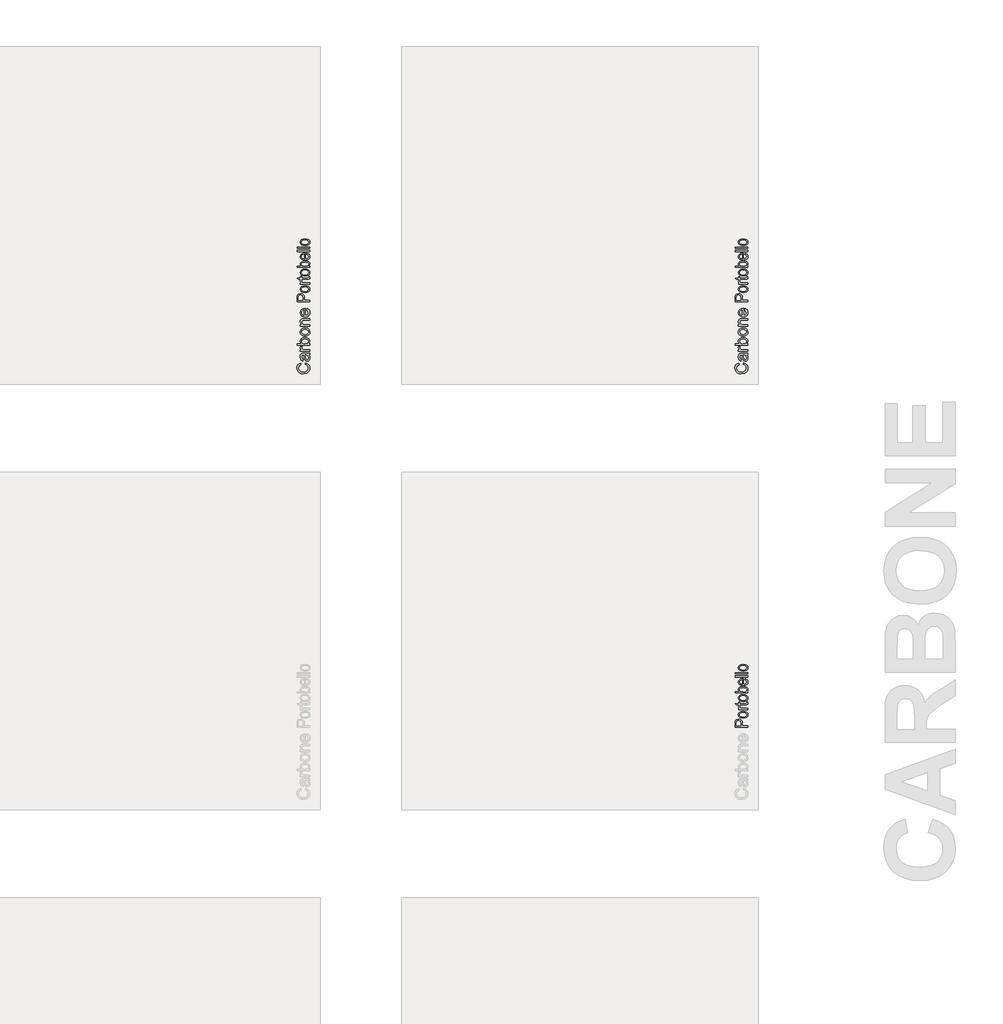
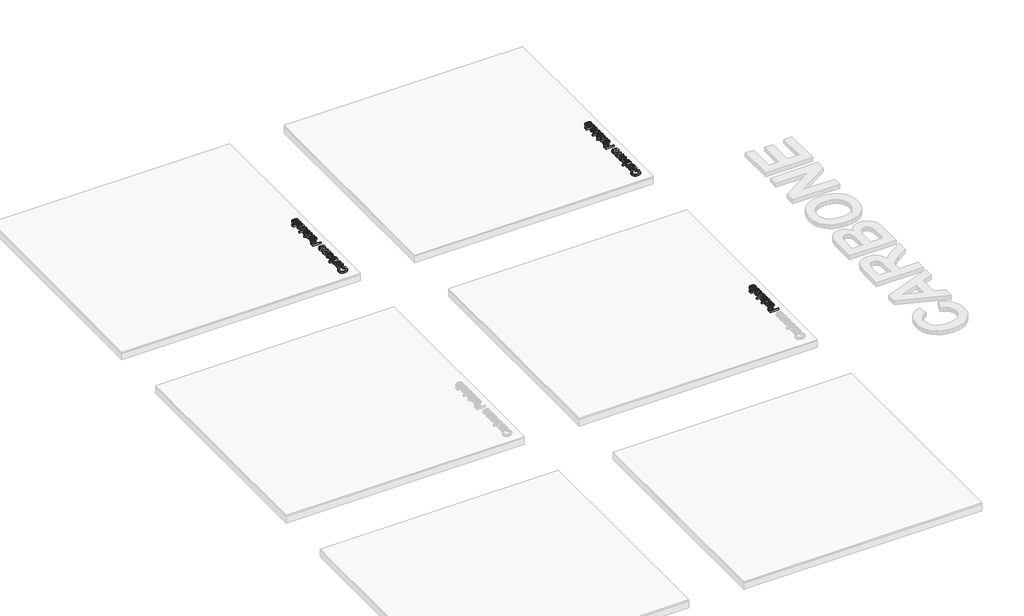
# One storey, part 5 of 12: 5 proxies.
"""IFC4 building model written with IfcOpenShell, lengths in millimetres."""

from ifc_helpers import new_model, si_unit, frame, origin, place, context, project, spatial, polyline, outline, extrude, element, save

model = new_model("IFC4")

# Units and contexts
model_context = context("Model", 3, world=origin())
ifc_project = project(units=[si_unit("LENGTHUNIT", "METRE", prefix="MILLI")], contexts=[model_context])

# Site, building, storey
site = spatial("IfcSite", under=ifc_project)
building = spatial("IfcBuilding", under=site)
storey = spatial("IfcBuildingStorey", under=building, Name="PORTOBELLO - SHOWROOM", Elevation=0.0)

# Proxies
placement = place(None, origin())
element("IfcBuildingElementProxy", 1, Name="10mm Arial", ObjectType="10mm Arial", at=placement, inside=storey, context=model_context, shape_type="SweptSolid", body=[
    extrude(outline(polyline([(-25305.3095564, -2897.3091823), (-25302.0721949, -2884.7521435), (-25287.4396885, -2890.5462849), (-25276.7496509, -2899.6391016), (-25270.2105484, -2911.5830037), (-25268.0308476, -2925.9304015), (-25269.6801852, -2940.4954628), (-25274.628198, -2952.0622859), (-25282.7032078, -2960.928242), (-25293.7335363, -2967.3907024), (-25320.588922, -2972.6514149), (-25335.2367567, -2971.1645585), (-25347.885766, -2966.7039893), (-25358.1343452, -2959.5026993), (-25365.58089, -2949.7936803), (-25370.1150356, -2938.2789738), (-25371.6264174, -2925.6606214), (-25369.6705115, -2911.8926377), (-25363.8027937, -2900.5097556), (-25354.3850146, -2891.8675944), (-25341.7789249, -2886.3217734), (-25338.786818, -2898.8788121), (-25354.2255991, -2909.179508), (-25359.0693787, -2926.1511307), (-25353.6983015, -2945.7960293), (-25339.2773273, -2956.8938028), (-25320.6134474, -2960.0943761), (-25298.9819861, -2956.3051916), (-25285.1618858, -2944.5084423), (-25280.5878863, -2927.1812003), (-25282.1452535, -2916.6996291), (-25286.8173548, -2907.9654974), (-25294.5551394, -2901.3712127), (-25305.3095564, -2897.3091823)])), frame((0.0, 0.0, 17.0), z_axis=(0.0, 0.0, 1.0), x_axis=(1.0, 0.0, 0.0)), (0.0, 0.0, 1.0), 20.0),
    extrude(outline(polyline([(-25279.0182565, -2821.9669497), (-25270.5079197, -2834.1438437), (-25268.0308476, -2847.596062), (-25269.5207697, -2858.0898959), (-25273.9905359, -2865.8307462), (-25280.7779587, -2870.6040151), (-25289.2208505, -2872.1951048), (-25299.1536644, -2869.7916091), (-25306.3641515, -2863.4763015), (-25310.4844298, -2854.6839218), (-25312.3728907, -2843.8191402), (-25316.6893728, -2822.0405261), (-25319.485276, -2821.9669497), (-25328.7559023, -2825.4250404), (-25332.3856713, -2839.3064544), (-25329.9699128, -2852.010646), (-25321.3982623, -2858.0684361), (-25322.9678922, -2870.6254749), (-25335.2306254, -2865.1930841), (-25342.416587, -2854.2547261), (-25344.94271, -2837.6877736), (-25342.7108926, -2822.4697217), (-25337.1068235, -2813.8735458), (-25328.584224, -2810.0230476), (-25317.5968151, -2809.4099109), (-25301.974093, -2809.4099109), (-25280.1586907, -2808.7722488), (-25269.6004774, -2806.2706512), (-25269.6004774, -2818.82769), (-25279.0182565, -2821.9669497)]), holes=[polyline([(-25304.132334, -2821.9669497), (-25300.2818358, -2842.2249849), (-25298.2462221, -2853.0284528), (-25294.9352842, -2857.9212833), (-25290.1037673, -2859.638066), (-25283.3102131, -2855.8979324), (-25280.5878863, -2844.9227862), (-25283.592256, -2832.2185946), (-25290.8640567, -2824.0270889), (-25300.5761414, -2822.0405261), (-25304.132334, -2821.9669497)])]), frame((0.0, 0.0, 17.0), z_axis=(0.0, 0.0, 1.0), x_axis=(1.0, 0.0, 0.0)), (0.0, 0.0, 1.0), 20.0),
    extrude(outline(polyline([(-25269.6004774, -2792.1439826), (-25343.3730802, -2792.1439826), (-25343.3730802, -2781.1565737), (-25332.4592477, -2781.1565737), (-25342.5146889, -2773.3574754), (-25344.94271, -2765.5093262), (-25341.0676864, -2752.9032364), (-25329.8104973, -2757.0970912), (-25332.3856713, -2765.9262591), (-25329.9085992, -2773.0263816), (-25323.0414686, -2777.5513301), (-25308.3752397, -2779.5869438), (-25269.6004774, -2779.5869438), (-25269.6004774, -2792.1439826)])), frame((0.0, 0.0, 17.0), z_axis=(0.0, 0.0, 1.0), x_axis=(1.0, 0.0, 0.0)), (0.0, 0.0, 1.0), 20.0),
    extrude(outline(polyline([(-25269.6004774, -2732.4980485), (-25269.6004774, -2745.0550872), (-25370.0567876, -2745.0550872), (-25370.0567876, -2732.4980485), (-25332.8026042, -2732.4980485), (-25341.9076836, -2723.7056688), (-25344.94271, -2712.7795735), (-25342.2081205, -2700.1980093), (-25334.5193868, -2690.4368737), (-25322.563222, -2684.4403971), (-25307.5904248, -2682.2698934), (-25290.8272685, -2684.5170392), (-25278.3560689, -2691.2584768), (-25270.6121529, -2701.1514368), (-25268.0308476, -2712.8531499), (-25271.3601796, -2724.0183685), (-25281.3481758, -2732.4980485), (-25269.6004774, -2732.4980485)]), holes=[polyline([(-25307.0018136, -2732.4980485), (-25289.4415797, -2729.0644832), (-25282.8013097, -2722.4855268), (-25280.5878863, -2713.9322704), (-25282.2188299, -2706.6849951), (-25287.1116604, -2700.4923149), (-25295.2357211, -2696.2432778), (-25306.5603552, -2694.8269321), (-25318.0505362, -2696.1850298), (-25326.0826264, -2700.2593229), (-25330.8099101, -2706.2588651), (-25332.3856713, -2713.3927102), (-25330.7547278, -2720.6399855), (-25325.8618972, -2726.8326657), (-25317.8849893, -2731.0817028), (-25307.0018136, -2732.4980485)])]), frame((0.0, 0.0, 17.0), z_axis=(0.0, 0.0, 1.0), x_axis=(1.0, 0.0, 0.0)), (0.0, 0.0, 1.0), 20.0),
    extrude(outline(polyline([(-25306.4867788, -2671.2824845), (-25324.2738733, -2668.5662891), (-25336.7757297, -2660.4177029), (-25342.900965, -2650.3499989), (-25344.94271, -2638.2957322), (-25342.4564409, -2625.104097), (-25334.9976334, -2614.5673435), (-25323.1548989, -2607.6603591), (-25307.5168484, -2605.3580309), (-25285.1741486, -2609.4292583), (-25272.5312707, -2621.2873213), (-25268.0308476, -2638.2957322), (-25270.5079197, -2651.646783), (-25277.939136, -2662.1712737), (-25290.0301909, -2669.0046818), (-25306.4867788, -2671.2824845)]), holes=[polyline([(-25306.5113043, -2658.7254457), (-25295.1468163, -2657.2723118), (-25287.0503467, -2652.9129102), (-25282.2035014, -2646.3523479), (-25280.5878863, -2638.2957322), (-25282.2126985, -2630.2759047), (-25287.0871349, -2623.7276052), (-25295.2909034, -2619.3682036), (-25306.9037117, -2617.9150697), (-25317.9371059, -2619.3774006), (-25325.9232109, -2623.7643934), (-25330.7700562, -2630.32189), (-25332.3856713, -2638.2957322), (-25330.7761875, -2646.3523479), (-25325.9477364, -2652.9129102), (-25317.8696609, -2657.2723118), (-25306.5113043, -2658.7254457)])]), frame((0.0, 0.0, 17.0), z_axis=(0.0, 0.0, 1.0), x_axis=(1.0, 0.0, 0.0)), (0.0, 0.0, 1.0), 20.0),
    extrude(outline(polyline([(-25269.6004774, -2591.2313623), (-25343.3730802, -2591.2313623), (-25343.3730802, -2578.6743235), (-25333.0723843, -2578.6743235), (-25341.9751286, -2569.0726035), (-25344.94271, -2555.9637417), (-25342.5514771, -2544.1056787), (-25336.2729577, -2536.0122748), (-25327.0391196, -2532.2476157), (-25314.8990138, -2531.5854282), (-25269.6004774, -2531.5854282), (-25269.6004774, -2544.1424669), (-25313.2067566, -2544.1424669), (-25324.3167928, -2545.5894694), (-25330.190642, -2550.7030292), (-25332.3856713, -2559.3237306), (-25327.4560525, -2572.9476271), (-25320.3130105, -2577.2426494), (-25308.7431217, -2578.6743235), (-25269.6004774, -2578.6743235), (-25269.6004774, -2591.2313623)])), frame((0.0, 0.0, 17.0), z_axis=(0.0, 0.0, 1.0), x_axis=(1.0, 0.0, 0.0)), (0.0, 0.0, 1.0), 20.0),
    extrude(outline(polyline([(-25291.5752953, -2462.6688677), (-25290.0056654, -2450.3570836), (-25280.7289078, -2454.7931273), (-25273.7943322, -2461.8717901), (-25269.4717187, -2471.4336563), (-25268.0308476, -2483.3193104), (-25270.5171167, -2498.0529843), (-25277.9759242, -2509.3898811), (-25289.922892, -2516.6187623), (-25305.8736422, -2519.0283894), (-25322.3608869, -2516.5942368), (-25334.6910651, -2509.2917792), (-25342.3797988, -2498.1081666), (-25344.94271, -2484.0305489), (-25342.3859302, -2470.3913239), (-25334.7155906, -2459.4928198), (-25322.4099378, -2452.3467121), (-25305.9472185, -2449.9646762), (-25302.5627042, -2450.0382526), (-25302.5627042, -2506.4713506), (-25293.1633192, -2504.2977812), (-25286.2532691, -2499.2486008), (-25282.004232, -2491.9614716), (-25280.5878863, -2483.0740557), (-25283.2121112, -2470.7622716), (-25291.5752953, -2462.6688677)]), holes=[polyline([(-25315.119743, -2506.4713506), (-25315.119743, -2462.5217149), (-25326.4995593, -2467.5494355), (-25330.9141433, -2474.8702872), (-25332.3856713, -2484.0795998), (-25327.6890445, -2499.5429064), (-25322.1984057, -2504.4081458), (-25315.119743, -2506.4713506)])]), frame((0.0, 0.0, 17.0), z_axis=(0.0, 0.0, 1.0), x_axis=(1.0, 0.0, 0.0)), (0.0, 0.0, 1.0), 20.0),
])
element("IfcBuildingElementProxy", 2, Name="10mm Arial", ObjectType="10mm Arial", at=placement, inside=storey, context=model_context, shape_type="SweptSolid", body=[
    extrude(outline(polyline([(-28805.3095564, -2897.3091823), (-28802.0721949, -2884.7521435), (-28787.4396885, -2890.5462849), (-28776.7496509, -2899.6391016), (-28770.2105484, -2911.5830037), (-28768.0308476, -2925.9304015), (-28769.6801852, -2940.4954628), (-28774.628198, -2952.0622859), (-28782.7032078, -2960.928242), (-28793.7335363, -2967.3907024), (-28820.588922, -2972.6514149), (-28835.2367567, -2971.1645585), (-28847.885766, -2966.7039893), (-28858.1343452, -2959.5026993), (-28865.58089, -2949.7936803), (-28870.1150356, -2938.2789738), (-28871.6264174, -2925.6606214), (-28869.6705115, -2911.8926377), (-28863.8027937, -2900.5097556), (-28854.3850146, -2891.8675944), (-28841.7789249, -2886.3217734), (-28838.786818, -2898.8788121), (-28854.2255991, -2909.179508), (-28859.0693787, -2926.1511307), (-28853.6983015, -2945.7960293), (-28839.2773273, -2956.8938028), (-28820.6134474, -2960.0943761), (-28798.9819861, -2956.3051916), (-28785.1618858, -2944.5084423), (-28780.5878863, -2927.1812003), (-28782.1452535, -2916.6996291), (-28786.8173548, -2907.9654974), (-28794.5551394, -2901.3712127), (-28805.3095564, -2897.3091823)])), frame((0.0, 0.0, 17.0), z_axis=(0.0, 0.0, 1.0), x_axis=(1.0, 0.0, 0.0)), (0.0, 0.0, 1.0), 20.0),
    extrude(outline(polyline([(-28779.0182565, -2821.9669497), (-28770.5079197, -2834.1438437), (-28768.0308476, -2847.596062), (-28769.5207697, -2858.0898959), (-28773.9905359, -2865.8307462), (-28780.7779587, -2870.6040151), (-28789.2208505, -2872.1951048), (-28799.1536644, -2869.7916091), (-28806.3641515, -2863.4763015), (-28810.4844298, -2854.6839218), (-28812.3728907, -2843.8191402), (-28816.6893728, -2822.0405261), (-28819.485276, -2821.9669497), (-28828.7559023, -2825.4250404), (-28832.3856713, -2839.3064544), (-28829.9699128, -2852.010646), (-28821.3982623, -2858.0684361), (-28822.9678922, -2870.6254749), (-28835.2306254, -2865.1930841), (-28842.416587, -2854.2547261), (-28844.94271, -2837.6877736), (-28842.7108926, -2822.4697217), (-28837.1068235, -2813.8735458), (-28828.584224, -2810.0230476), (-28817.5968151, -2809.4099109), (-28801.974093, -2809.4099109), (-28780.1586907, -2808.7722488), (-28769.6004774, -2806.2706512), (-28769.6004774, -2818.82769), (-28779.0182565, -2821.9669497)]), holes=[polyline([(-28804.132334, -2821.9669497), (-28800.2818358, -2842.2249849), (-28798.2462221, -2853.0284528), (-28794.9352842, -2857.9212833), (-28790.1037673, -2859.638066), (-28783.3102131, -2855.8979324), (-28780.5878863, -2844.9227862), (-28783.592256, -2832.2185946), (-28790.8640567, -2824.0270889), (-28800.5761414, -2822.0405261), (-28804.132334, -2821.9669497)])]), frame((0.0, 0.0, 17.0), z_axis=(0.0, 0.0, 1.0), x_axis=(1.0, 0.0, 0.0)), (0.0, 0.0, 1.0), 20.0),
    extrude(outline(polyline([(-28769.6004774, -2792.1439826), (-28843.3730802, -2792.1439826), (-28843.3730802, -2781.1565737), (-28832.4592477, -2781.1565737), (-28842.5146889, -2773.3574754), (-28844.94271, -2765.5093262), (-28841.0676864, -2752.9032364), (-28829.8104973, -2757.0970912), (-28832.3856713, -2765.9262591), (-28829.9085992, -2773.0263816), (-28823.0414686, -2777.5513301), (-28808.3752397, -2779.5869438), (-28769.6004774, -2779.5869438), (-28769.6004774, -2792.1439826)])), frame((0.0, 0.0, 17.0), z_axis=(0.0, 0.0, 1.0), x_axis=(1.0, 0.0, 0.0)), (0.0, 0.0, 1.0), 20.0),
    extrude(outline(polyline([(-28769.6004774, -2732.4980485), (-28769.6004774, -2745.0550872), (-28870.0567876, -2745.0550872), (-28870.0567876, -2732.4980485), (-28832.8026042, -2732.4980485), (-28841.9076836, -2723.7056688), (-28844.94271, -2712.7795735), (-28842.2081205, -2700.1980093), (-28834.5193868, -2690.4368737), (-28822.563222, -2684.4403971), (-28807.5904248, -2682.2698934), (-28790.8272685, -2684.5170392), (-28778.3560689, -2691.2584768), (-28770.6121529, -2701.1514368), (-28768.0308476, -2712.8531499), (-28771.3601796, -2724.0183685), (-28781.3481758, -2732.4980485), (-28769.6004774, -2732.4980485)]), holes=[polyline([(-28807.0018136, -2732.4980485), (-28789.4415797, -2729.0644832), (-28782.8013097, -2722.4855268), (-28780.5878863, -2713.9322704), (-28782.2188299, -2706.6849951), (-28787.1116604, -2700.4923149), (-28795.2357211, -2696.2432778), (-28806.5603552, -2694.8269321), (-28818.0505362, -2696.1850298), (-28826.0826264, -2700.2593229), (-28830.8099101, -2706.2588651), (-28832.3856713, -2713.3927102), (-28830.7547278, -2720.6399855), (-28825.8618972, -2726.8326657), (-28817.8849893, -2731.0817028), (-28807.0018136, -2732.4980485)])]), frame((0.0, 0.0, 17.0), z_axis=(0.0, 0.0, 1.0), x_axis=(1.0, 0.0, 0.0)), (0.0, 0.0, 1.0), 20.0),
    extrude(outline(polyline([(-28806.4867788, -2671.2824845), (-28824.2738733, -2668.5662891), (-28836.7757297, -2660.4177029), (-28842.900965, -2650.3499989), (-28844.94271, -2638.2957322), (-28842.4564409, -2625.104097), (-28834.9976334, -2614.5673435), (-28823.1548989, -2607.6603591), (-28807.5168484, -2605.3580309), (-28785.1741486, -2609.4292583), (-28772.5312707, -2621.2873213), (-28768.0308476, -2638.2957322), (-28770.5079197, -2651.646783), (-28777.939136, -2662.1712737), (-28790.0301909, -2669.0046818), (-28806.4867788, -2671.2824845)]), holes=[polyline([(-28806.5113043, -2658.7254457), (-28795.1468163, -2657.2723118), (-28787.0503467, -2652.9129102), (-28782.2035014, -2646.3523479), (-28780.5878863, -2638.2957322), (-28782.2126985, -2630.2759047), (-28787.0871349, -2623.7276052), (-28795.2909034, -2619.3682036), (-28806.9037117, -2617.9150697), (-28817.9371059, -2619.3774006), (-28825.9232109, -2623.7643934), (-28830.7700562, -2630.32189), (-28832.3856713, -2638.2957322), (-28830.7761875, -2646.3523479), (-28825.9477364, -2652.9129102), (-28817.8696609, -2657.2723118), (-28806.5113043, -2658.7254457)])]), frame((0.0, 0.0, 17.0), z_axis=(0.0, 0.0, 1.0), x_axis=(1.0, 0.0, 0.0)), (0.0, 0.0, 1.0), 20.0),
    extrude(outline(polyline([(-28769.6004774, -2591.2313623), (-28843.3730802, -2591.2313623), (-28843.3730802, -2578.6743235), (-28833.0723843, -2578.6743235), (-28841.9751286, -2569.0726035), (-28844.94271, -2555.9637417), (-28842.5514771, -2544.1056787), (-28836.2729577, -2536.0122748), (-28827.0391196, -2532.2476157), (-28814.8990138, -2531.5854282), (-28769.6004774, -2531.5854282), (-28769.6004774, -2544.1424669), (-28813.2067566, -2544.1424669), (-28824.3167928, -2545.5894694), (-28830.190642, -2550.7030292), (-28832.3856713, -2559.3237306), (-28827.4560525, -2572.9476271), (-28820.3130105, -2577.2426494), (-28808.7431217, -2578.6743235), (-28769.6004774, -2578.6743235), (-28769.6004774, -2591.2313623)])), frame((0.0, 0.0, 17.0), z_axis=(0.0, 0.0, 1.0), x_axis=(1.0, 0.0, 0.0)), (0.0, 0.0, 1.0), 20.0),
    extrude(outline(polyline([(-28791.5752953, -2462.6688677), (-28790.0056654, -2450.3570836), (-28780.7289078, -2454.7931273), (-28773.7943322, -2461.8717901), (-28769.4717187, -2471.4336563), (-28768.0308476, -2483.3193104), (-28770.5171167, -2498.0529843), (-28777.9759242, -2509.3898811), (-28789.922892, -2516.6187623), (-28805.8736422, -2519.0283894), (-28822.3608869, -2516.5942368), (-28834.6910651, -2509.2917792), (-28842.3797988, -2498.1081666), (-28844.94271, -2484.0305489), (-28842.3859302, -2470.3913239), (-28834.7155906, -2459.4928198), (-28822.4099378, -2452.3467121), (-28805.9472185, -2449.9646762), (-28802.5627042, -2450.0382526), (-28802.5627042, -2506.4713506), (-28793.1633192, -2504.2977812), (-28786.2532691, -2499.2486008), (-28782.004232, -2491.9614716), (-28780.5878863, -2483.0740557), (-28783.2121112, -2470.7622716), (-28791.5752953, -2462.6688677)]), holes=[polyline([(-28815.119743, -2506.4713506), (-28815.119743, -2462.5217149), (-28826.4995593, -2467.5494355), (-28830.9141433, -2474.8702872), (-28832.3856713, -2484.0795998), (-28827.6890445, -2499.5429064), (-28822.1984057, -2504.4081458), (-28815.119743, -2506.4713506)])]), frame((0.0, 0.0, 17.0), z_axis=(0.0, 0.0, 1.0), x_axis=(1.0, 0.0, 0.0)), (0.0, 0.0, 1.0), 20.0),
])
element("IfcBuildingElementProxy", 3, Name="10mm Arial Narrow", ObjectType="10mm Arial Narrow", at=placement, inside=storey, context=model_context, shape_type="SweptSolid", body=[
    extrude(outline(polyline([(-25269.6004774, -5795.6286257), (-25370.3190812, -5795.6286257), (-25370.3190812, -5764.3317411), (-25368.4407604, -5748.0360395), (-25358.9603173, -5736.5630534), (-25341.9412084, -5732.273375), (-25329.8653829, -5734.0596834), (-25320.2389891, -5739.4186086), (-25313.9377307, -5749.1623974), (-25311.8373113, -5764.1032966), (-25311.8373113, -5785.8816641), (-25269.6004774, -5785.8816641), (-25269.6004774, -5795.6286257)]), holes=[polyline([(-25323.2087665, -5785.8816641), (-25323.2087665, -5762.9103091), (-25327.7395807, -5747.0461137), (-25341.4081715, -5742.0203366), (-25351.5739479, -5744.4951511), (-25357.3738977, -5750.47278), (-25358.9476259, -5763.1387536), (-25358.9476259, -5785.8816641), (-25323.2087665, -5785.8816641)])]), frame((0.0, 0.0, 17.0), z_axis=(0.0, 0.0, 1.0), x_axis=(1.0, 0.0, 0.0)), (0.0, 0.0, 1.0), 20.0),
    extrude(outline(polyline([(-25306.1515836, -5724.1509069), (-25322.7423592, -5722.1964381), (-25334.694444, -5716.3330315), (-25341.9189986, -5707.4744647), (-25344.3271834, -5696.5345156), (-25341.9189986, -5685.72148), (-25334.694444, -5676.8375306), (-25322.9327295, -5670.8979758), (-25306.913065, -5668.9181242), (-25289.7511784, -5670.8630746), (-25277.6087233, -5676.6979257), (-25270.3841687, -5685.5469739), (-25267.9759838, -5696.5345156), (-25270.3905144, -5707.3951438), (-25277.634106, -5716.2695747), (-25289.5925365, -5722.1805739), (-25306.1515836, -5724.1509069)]), holes=[polyline([(-25306.1769663, -5714.4039453), (-25293.6252149, -5713.0999084), (-25284.7539569, -5709.1877978), (-25279.4806983, -5703.3466011), (-25277.7229455, -5696.2553058), (-25279.4965625, -5689.5352326), (-25284.8174137, -5683.8431593), (-25293.7045359, -5679.9596042), (-25306.1769663, -5678.6650859), (-25318.6906437, -5679.9691228), (-25327.5492104, -5683.8812333), (-25332.8224689, -5689.7224301), (-25334.5802218, -5696.8137254), (-25332.8129504, -5703.5813912), (-25327.5111363, -5709.263946), (-25318.6430511, -5713.1189455), (-25306.1769663, -5714.4039453)])]), frame((0.0, 0.0, 17.0), z_axis=(0.0, 0.0, 1.0), x_axis=(1.0, 0.0, 0.0)), (0.0, 0.0, 1.0), 20.0),
    extrude(outline(polyline([(-25277.7229455, -5597.4404054), (-25267.9759838, -5595.8159118), (-25267.9759838, -5603.1768985), (-25270.0954403, -5611.4516628), (-25275.8953902, -5615.766724), (-25290.5412154, -5616.9343288), (-25332.9557282, -5616.9343288), (-25332.9557282, -5625.0567968), (-25336.2047154, -5625.0567968), (-25331.3312346, -5626.6812904), (-25332.9557282, -5634.2453388), (-25330.63321, -5640.3244985), (-25324.1479269, -5644.1953621), (-25308.7406203, -5646.1752137), (-25269.6004774, -5646.1752137), (-25269.6004774, -5655.9221754), (-25342.7026898, -5655.9221754), (-25342.7026898, -5646.1752137), (-25333.0064936, -5646.1752137), (-25342.0935047, -5639.9310664), (-25344.3271834, -5633.5346228), (-25342.7026898, -5625.0567968), (-25342.7026898, -5616.9343288), (-25358.9476259, -5616.9343288), (-25367.070094, -5607.1873671), (-25342.7026898, -5607.1873671), (-25342.7026898, -5597.4404054), (-25332.9557282, -5597.4404054), (-25332.9557282, -5607.1873671), (-25288.3075366, -5607.1873671), (-25280.3119822, -5606.3243549), (-25277.7229455, -5601.7047012), (-25277.7229455, -5597.4404054)])), frame((0.0, 0.0, 17.0), z_axis=(0.0, 0.0, 1.0), x_axis=(1.0, 0.0, 0.0)), (0.0, 0.0, 1.0), 20.0),
    extrude(outline(polyline([(-25306.1515836, -5590.942431), (-25322.7423592, -5588.9879621), (-25334.694444, -5583.1245555), (-25341.9189986, -5574.2659888), (-25344.3271834, -5563.3260397), (-25341.9189986, -5552.5130041), (-25334.694444, -5543.6290547), (-25322.9327295, -5537.6894999), (-25306.913065, -5535.7096483), (-25289.7511784, -5537.6545987), (-25277.6087233, -5543.4894497), (-25270.3841687, -5552.3384979), (-25267.9759838, -5563.3260397), (-25270.3905144, -5574.1866678), (-25277.634106, -5583.0610987), (-25289.5925365, -5588.9720979), (-25306.1515836, -5590.942431)]), holes=[polyline([(-25306.1769663, -5581.1954694), (-25293.6252149, -5579.8914325), (-25284.7539569, -5575.9793219), (-25279.4806983, -5570.1381252), (-25277.7229455, -5563.0468298), (-25279.4965625, -5556.3267567), (-25284.8174137, -5550.6346833), (-25293.7045359, -5546.7511283), (-25306.1769663, -5545.45661), (-25318.6906437, -5546.7606468), (-25327.5492104, -5550.6727574), (-25332.8224689, -5556.5139542), (-25334.5802218, -5563.6052495), (-25332.8129504, -5570.3729153), (-25327.5111363, -5576.05547), (-25318.6430511, -5579.9104695), (-25306.1769663, -5581.1954694)])]), frame((0.0, 0.0, 17.0), z_axis=(0.0, 0.0, 1.0), x_axis=(1.0, 0.0, 0.0)), (0.0, 0.0, 1.0), 20.0),
    extrude(outline(polyline([(-25269.6004774, -5512.9667378), (-25269.6004774, -5522.7136994), (-25370.3190812, -5522.7136994), (-25370.3190812, -5512.9667378), (-25334.910197, -5512.9667378), (-25341.9919739, -5505.5676771), (-25344.3271834, -5496.3664437), (-25340.1263445, -5483.4847171), (-25327.3969141, -5474.2073356), (-25306.7100033, -5470.729904), (-25290.2556598, -5472.662163), (-25278.0529207, -5478.45894), (-25270.495218, -5486.8320623), (-25267.9759838, -5496.4933573), (-25270.5904032, -5505.8341955), (-25278.3575133, -5512.9667378), (-25269.6004774, -5512.9667378)]), holes=[polyline([(-25306.7100033, -5512.9667378), (-25289.4624501, -5510.8853553), (-25280.7307969, -5504.996566), (-25277.7229455, -5496.5441227), (-25279.5124267, -5490.6013951), (-25284.8808704, -5485.3630378), (-25306.3038799, -5480.4768656), (-25327.7395807, -5485.1853588), (-25332.8700615, -5490.4300618), (-25334.5802218, -5496.7471844), (-25332.7907405, -5502.7248132), (-25327.4222968, -5508.0171088), (-25306.7100033, -5512.9667378)])]), frame((0.0, 0.0, 17.0), z_axis=(0.0, 0.0, 1.0), x_axis=(1.0, 0.0, 0.0)), (0.0, 0.0, 1.0), 20.0),
    extrude(outline(polyline([(-25292.343388, -5418.7461085), (-25290.7188943, -5408.9991468), (-25280.8323278, -5412.6986772), (-25273.7124769, -5418.5176641), (-25269.4101071, -5426.2213173), (-25267.9759838, -5435.5748469), (-25270.3905144, -5447.1684009), (-25277.634106, -5456.3125232), (-25289.4402402, -5462.2520779), (-25305.5423985, -5464.2319295), (-25322.2093222, -5462.2425594), (-25334.3898514, -5456.2744491), (-25341.8428504, -5447.2604133), (-25344.3271834, -5436.1332666), (-25341.9285171, -5425.4503174), (-25334.7325181, -5416.7028001), (-25322.9930135, -5410.867949), (-25306.9638304, -5408.9229987), (-25303.7148432, -5408.9991468), (-25303.7148432, -5454.4849679), (-25284.2716853, -5448.4819563), (-25279.3601304, -5442.5519201), (-25277.7229455, -5435.4479334), (-25281.3780561, -5425.2694656), (-25292.343388, -5418.7461085)]), holes=[polyline([(-25313.4618049, -5453.8250173), (-25313.4618049, -5418.7461085), (-25327.7268894, -5423.0104042), (-25332.8668887, -5428.8357367), (-25334.5802218, -5436.0571185), (-25328.8691114, -5448.2662033), (-25313.4618049, -5453.8250173)])]), frame((0.0, 0.0, 17.0), z_axis=(0.0, 0.0, 1.0), x_axis=(1.0, 0.0, 0.0)), (0.0, 0.0, 1.0), 20.0),
    extrude(outline(polyline([(-25269.6004774, -5396.0031979), (-25370.3190812, -5396.0031979), (-25370.3190812, -5386.2562363), (-25269.6004774, -5386.2562363), (-25269.6004774, -5396.0031979)])), frame((0.0, 0.0, 17.0), z_axis=(0.0, 0.0, 1.0), x_axis=(1.0, 0.0, 0.0)), (0.0, 0.0, 1.0), 20.0),
    extrude(outline(polyline([(-25269.6004774, -5370.0113002), (-25370.3190812, -5370.0113002), (-25370.3190812, -5360.2643385), (-25269.6004774, -5360.2643385), (-25269.6004774, -5370.0113002)])), frame((0.0, 0.0, 17.0), z_axis=(0.0, 0.0, 1.0), x_axis=(1.0, 0.0, 0.0)), (0.0, 0.0, 1.0), 20.0),
    extrude(outline(polyline([(-25306.1515836, -5348.8928833), (-25322.7423592, -5346.9384144), (-25334.694444, -5341.0750078), (-25341.9189986, -5332.2164411), (-25344.3271834, -5321.2764919), (-25341.9189986, -5310.4634563), (-25334.694444, -5301.5795069), (-25322.9327295, -5295.6399522), (-25306.913065, -5293.6601006), (-25289.7511784, -5295.6050509), (-25277.6087233, -5301.439902), (-25270.3841687, -5310.2889502), (-25267.9759838, -5321.2764919), (-25270.3905144, -5332.1371201), (-25277.634106, -5341.011551), (-25289.5925365, -5346.9225502), (-25306.1515836, -5348.8928833)]), holes=[polyline([(-25306.1769663, -5339.1459216), (-25293.6252149, -5337.8418848), (-25284.7539569, -5333.9297742), (-25279.4806983, -5328.0885774), (-25277.7229455, -5320.9972821), (-25279.4965625, -5314.2772089), (-25284.8174137, -5308.5851356), (-25293.7045359, -5304.7015806), (-25306.1769663, -5303.4070622), (-25318.6906437, -5304.7110991), (-25327.5492104, -5308.6232097), (-25332.8224689, -5314.4644064), (-25334.5802218, -5321.5557018), (-25332.8129504, -5328.3233675), (-25327.5111363, -5334.0059223), (-25318.6430511, -5337.8609218), (-25306.1769663, -5339.1459216)])]), frame((0.0, 0.0, 17.0), z_axis=(0.0, 0.0, 1.0), x_axis=(1.0, 0.0, 0.0)), (0.0, 0.0, 1.0), 20.0),
])
element("IfcBuildingElementProxy", 4, Name="10mm Arial Narrow", ObjectType="10mm Arial Narrow", at=placement, inside=storey, context=model_context, shape_type="SweptSolid", body=[
    extrude(outline(polyline([(-25269.6004774, -2395.6286257), (-25370.3190812, -2395.6286257), (-25370.3190812, -2364.3317411), (-25368.4407604, -2348.0360395), (-25358.9603173, -2336.5630534), (-25341.9412084, -2332.273375), (-25329.8653829, -2334.0596834), (-25320.2389891, -2339.4186086), (-25313.9377307, -2349.1623974), (-25311.8373113, -2364.1032966), (-25311.8373113, -2385.8816641), (-25269.6004774, -2385.8816641), (-25269.6004774, -2395.6286257)]), holes=[polyline([(-25323.2087665, -2385.8816641), (-25323.2087665, -2362.9103091), (-25327.7395807, -2347.0461137), (-25341.4081715, -2342.0203366), (-25351.5739479, -2344.4951511), (-25357.3738977, -2350.47278), (-25358.9476259, -2363.1387536), (-25358.9476259, -2385.8816641), (-25323.2087665, -2385.8816641)])]), frame((0.0, 0.0, 17.0), z_axis=(0.0, 0.0, 1.0), x_axis=(1.0, 0.0, 0.0)), (0.0, 0.0, 1.0), 20.0),
    extrude(outline(polyline([(-25306.1515836, -2324.1509069), (-25322.7423592, -2322.1964381), (-25334.694444, -2316.3330315), (-25341.9189986, -2307.4744647), (-25344.3271834, -2296.5345156), (-25341.9189986, -2285.72148), (-25334.694444, -2276.8375306), (-25322.9327295, -2270.8979758), (-25306.913065, -2268.9181242), (-25289.7511784, -2270.8630746), (-25277.6087233, -2276.6979257), (-25270.3841687, -2285.5469739), (-25267.9759838, -2296.5345156), (-25270.3905144, -2307.3951438), (-25277.634106, -2316.2695747), (-25289.5925365, -2322.1805739), (-25306.1515836, -2324.1509069)]), holes=[polyline([(-25306.1769663, -2314.4039453), (-25293.6252149, -2313.0999084), (-25284.7539569, -2309.1877978), (-25279.4806983, -2303.3466011), (-25277.7229455, -2296.2553058), (-25279.4965625, -2289.5352326), (-25284.8174137, -2283.8431593), (-25293.7045359, -2279.9596042), (-25306.1769663, -2278.6650859), (-25318.6906437, -2279.9691228), (-25327.5492104, -2283.8812333), (-25332.8224689, -2289.7224301), (-25334.5802218, -2296.8137254), (-25332.8129504, -2303.5813912), (-25327.5111363, -2309.263946), (-25318.6430511, -2313.1189455), (-25306.1769663, -2314.4039453)])]), frame((0.0, 0.0, 17.0), z_axis=(0.0, 0.0, 1.0), x_axis=(1.0, 0.0, 0.0)), (0.0, 0.0, 1.0), 20.0),
    extrude(outline(polyline([(-25277.7229455, -2197.4404054), (-25267.9759838, -2195.8159118), (-25267.9759838, -2203.1768985), (-25270.0954403, -2211.4516628), (-25275.8953902, -2215.766724), (-25290.5412154, -2216.9343288), (-25332.9557282, -2216.9343288), (-25332.9557282, -2225.0567968), (-25336.2047154, -2225.0567968), (-25331.3312346, -2226.6812904), (-25332.9557282, -2234.2453388), (-25330.63321, -2240.3244985), (-25324.1479269, -2244.1953621), (-25308.7406203, -2246.1752137), (-25269.6004774, -2246.1752137), (-25269.6004774, -2255.9221754), (-25342.7026898, -2255.9221754), (-25342.7026898, -2246.1752137), (-25333.0064936, -2246.1752137), (-25342.0935047, -2239.9310664), (-25344.3271834, -2233.5346228), (-25342.7026898, -2225.0567968), (-25342.7026898, -2216.9343288), (-25358.9476259, -2216.9343288), (-25367.070094, -2207.1873671), (-25342.7026898, -2207.1873671), (-25342.7026898, -2197.4404054), (-25332.9557282, -2197.4404054), (-25332.9557282, -2207.1873671), (-25288.3075366, -2207.1873671), (-25280.3119822, -2206.3243549), (-25277.7229455, -2201.7047012), (-25277.7229455, -2197.4404054)])), frame((0.0, 0.0, 17.0), z_axis=(0.0, 0.0, 1.0), x_axis=(1.0, 0.0, 0.0)), (0.0, 0.0, 1.0), 20.0),
    extrude(outline(polyline([(-25306.1515836, -2190.942431), (-25322.7423592, -2188.9879621), (-25334.694444, -2183.1245555), (-25341.9189986, -2174.2659888), (-25344.3271834, -2163.3260397), (-25341.9189986, -2152.5130041), (-25334.694444, -2143.6290547), (-25322.9327295, -2137.6894999), (-25306.913065, -2135.7096483), (-25289.7511784, -2137.6545987), (-25277.6087233, -2143.4894497), (-25270.3841687, -2152.3384979), (-25267.9759838, -2163.3260397), (-25270.3905144, -2174.1866678), (-25277.634106, -2183.0610987), (-25289.5925365, -2188.9720979), (-25306.1515836, -2190.942431)]), holes=[polyline([(-25306.1769663, -2181.1954694), (-25293.6252149, -2179.8914325), (-25284.7539569, -2175.9793219), (-25279.4806983, -2170.1381252), (-25277.7229455, -2163.0468298), (-25279.4965625, -2156.3267567), (-25284.8174137, -2150.6346833), (-25293.7045359, -2146.7511283), (-25306.1769663, -2145.45661), (-25318.6906437, -2146.7606468), (-25327.5492104, -2150.6727574), (-25332.8224689, -2156.5139542), (-25334.5802218, -2163.6052495), (-25332.8129504, -2170.3729153), (-25327.5111363, -2176.05547), (-25318.6430511, -2179.9104695), (-25306.1769663, -2181.1954694)])]), frame((0.0, 0.0, 17.0), z_axis=(0.0, 0.0, 1.0), x_axis=(1.0, 0.0, 0.0)), (0.0, 0.0, 1.0), 20.0),
    extrude(outline(polyline([(-25269.6004774, -2112.9667378), (-25269.6004774, -2122.7136994), (-25370.3190812, -2122.7136994), (-25370.3190812, -2112.9667378), (-25334.910197, -2112.9667378), (-25341.9919739, -2105.5676771), (-25344.3271834, -2096.3664437), (-25340.1263445, -2083.4847171), (-25327.3969141, -2074.2073356), (-25306.7100033, -2070.729904), (-25290.2556598, -2072.662163), (-25278.0529207, -2078.45894), (-25270.495218, -2086.8320623), (-25267.9759838, -2096.4933573), (-25270.5904032, -2105.8341955), (-25278.3575133, -2112.9667378), (-25269.6004774, -2112.9667378)]), holes=[polyline([(-25306.7100033, -2112.9667378), (-25289.4624501, -2110.8853553), (-25280.7307969, -2104.996566), (-25277.7229455, -2096.5441227), (-25279.5124267, -2090.6013951), (-25284.8808704, -2085.3630378), (-25306.3038799, -2080.4768656), (-25327.7395807, -2085.1853588), (-25332.8700615, -2090.4300618), (-25334.5802218, -2096.7471844), (-25332.7907405, -2102.7248132), (-25327.4222968, -2108.0171088), (-25306.7100033, -2112.9667378)])]), frame((0.0, 0.0, 17.0), z_axis=(0.0, 0.0, 1.0), x_axis=(1.0, 0.0, 0.0)), (0.0, 0.0, 1.0), 20.0),
    extrude(outline(polyline([(-25292.343388, -2018.7461085), (-25290.7188943, -2008.9991468), (-25280.8323278, -2012.6986772), (-25273.7124769, -2018.5176641), (-25269.4101071, -2026.2213173), (-25267.9759838, -2035.5748469), (-25270.3905144, -2047.1684009), (-25277.634106, -2056.3125232), (-25289.4402402, -2062.2520779), (-25305.5423985, -2064.2319295), (-25322.2093222, -2062.2425594), (-25334.3898514, -2056.2744491), (-25341.8428504, -2047.2604133), (-25344.3271834, -2036.1332666), (-25341.9285171, -2025.4503174), (-25334.7325181, -2016.7028001), (-25322.9930135, -2010.867949), (-25306.9638304, -2008.9229987), (-25303.7148432, -2008.9991468), (-25303.7148432, -2054.4849679), (-25284.2716853, -2048.4819563), (-25279.3601304, -2042.5519201), (-25277.7229455, -2035.4479334), (-25281.3780561, -2025.2694656), (-25292.343388, -2018.7461085)]), holes=[polyline([(-25313.4618049, -2053.8250173), (-25313.4618049, -2018.7461085), (-25327.7268894, -2023.0104042), (-25332.8668887, -2028.8357367), (-25334.5802218, -2036.0571185), (-25328.8691114, -2048.2662033), (-25313.4618049, -2053.8250173)])]), frame((0.0, 0.0, 17.0), z_axis=(0.0, 0.0, 1.0), x_axis=(1.0, 0.0, 0.0)), (0.0, 0.0, 1.0), 20.0),
    extrude(outline(polyline([(-25269.6004774, -1996.0031979), (-25370.3190812, -1996.0031979), (-25370.3190812, -1986.2562363), (-25269.6004774, -1986.2562363), (-25269.6004774, -1996.0031979)])), frame((0.0, 0.0, 17.0), z_axis=(0.0, 0.0, 1.0), x_axis=(1.0, 0.0, 0.0)), (0.0, 0.0, 1.0), 20.0),
    extrude(outline(polyline([(-25269.6004774, -1970.0113002), (-25370.3190812, -1970.0113002), (-25370.3190812, -1960.2643385), (-25269.6004774, -1960.2643385), (-25269.6004774, -1970.0113002)])), frame((0.0, 0.0, 17.0), z_axis=(0.0, 0.0, 1.0), x_axis=(1.0, 0.0, 0.0)), (0.0, 0.0, 1.0), 20.0),
    extrude(outline(polyline([(-25306.1515836, -1948.8928833), (-25322.7423592, -1946.9384144), (-25334.694444, -1941.0750078), (-25341.9189986, -1932.2164411), (-25344.3271834, -1921.2764919), (-25341.9189986, -1910.4634563), (-25334.694444, -1901.5795069), (-25322.9327295, -1895.6399522), (-25306.913065, -1893.6601006), (-25289.7511784, -1895.6050509), (-25277.6087233, -1901.439902), (-25270.3841687, -1910.2889502), (-25267.9759838, -1921.2764919), (-25270.3905144, -1932.1371201), (-25277.634106, -1941.011551), (-25289.5925365, -1946.9225502), (-25306.1515836, -1948.8928833)]), holes=[polyline([(-25306.1769663, -1939.1459216), (-25293.6252149, -1937.8418848), (-25284.7539569, -1933.9297742), (-25279.4806983, -1928.0885774), (-25277.7229455, -1920.9972821), (-25279.4965625, -1914.2772089), (-25284.8174137, -1908.5851356), (-25293.7045359, -1904.7015806), (-25306.1769663, -1903.4070622), (-25318.6906437, -1904.7110991), (-25327.5492104, -1908.6232097), (-25332.8224689, -1914.4644064), (-25334.5802218, -1921.5557018), (-25332.8129504, -1928.3233675), (-25327.5111363, -1934.0059223), (-25318.6430511, -1937.8609218), (-25306.1769663, -1939.1459216)])]), frame((0.0, 0.0, 17.0), z_axis=(0.0, 0.0, 1.0), x_axis=(1.0, 0.0, 0.0)), (0.0, 0.0, 1.0), 20.0),
])
element("IfcBuildingElementProxy", 5, Name="10mm Arial Narrow", ObjectType="10mm Arial Narrow", at=placement, inside=storey, context=model_context, shape_type="SweptSolid", body=[
    extrude(outline(polyline([(-28769.6004774, -2395.6286257), (-28870.3190812, -2395.6286257), (-28870.3190812, -2364.3317411), (-28868.4407604, -2348.0360395), (-28858.9603173, -2336.5630534), (-28841.9412084, -2332.273375), (-28829.8653829, -2334.0596834), (-28820.2389891, -2339.4186086), (-28813.9377307, -2349.1623974), (-28811.8373113, -2364.1032966), (-28811.8373113, -2385.8816641), (-28769.6004774, -2385.8816641), (-28769.6004774, -2395.6286257)]), holes=[polyline([(-28823.2087665, -2385.8816641), (-28823.2087665, -2362.9103091), (-28827.7395807, -2347.0461137), (-28841.4081715, -2342.0203366), (-28851.5739479, -2344.4951511), (-28857.3738977, -2350.47278), (-28858.9476259, -2363.1387536), (-28858.9476259, -2385.8816641), (-28823.2087665, -2385.8816641)])]), frame((0.0, 0.0, 17.0), z_axis=(0.0, 0.0, 1.0), x_axis=(1.0, 0.0, 0.0)), (0.0, 0.0, 1.0), 20.0),
    extrude(outline(polyline([(-28806.1515836, -2324.1509069), (-28822.7423592, -2322.1964381), (-28834.694444, -2316.3330315), (-28841.9189986, -2307.4744647), (-28844.3271834, -2296.5345156), (-28841.9189986, -2285.72148), (-28834.694444, -2276.8375306), (-28822.9327295, -2270.8979758), (-28806.913065, -2268.9181242), (-28789.7511784, -2270.8630746), (-28777.6087233, -2276.6979257), (-28770.3841687, -2285.5469739), (-28767.9759838, -2296.5345156), (-28770.3905144, -2307.3951438), (-28777.634106, -2316.2695747), (-28789.5925365, -2322.1805739), (-28806.1515836, -2324.1509069)]), holes=[polyline([(-28806.1769663, -2314.4039453), (-28793.6252149, -2313.0999084), (-28784.7539569, -2309.1877978), (-28779.4806983, -2303.3466011), (-28777.7229455, -2296.2553058), (-28779.4965625, -2289.5352326), (-28784.8174137, -2283.8431593), (-28793.7045359, -2279.9596042), (-28806.1769663, -2278.6650859), (-28818.6906437, -2279.9691228), (-28827.5492104, -2283.8812333), (-28832.8224689, -2289.7224301), (-28834.5802218, -2296.8137254), (-28832.8129504, -2303.5813912), (-28827.5111363, -2309.263946), (-28818.6430511, -2313.1189455), (-28806.1769663, -2314.4039453)])]), frame((0.0, 0.0, 17.0), z_axis=(0.0, 0.0, 1.0), x_axis=(1.0, 0.0, 0.0)), (0.0, 0.0, 1.0), 20.0),
    extrude(outline(polyline([(-28777.7229455, -2197.4404054), (-28767.9759838, -2195.8159118), (-28767.9759838, -2203.1768985), (-28770.0954403, -2211.4516628), (-28775.8953902, -2215.766724), (-28790.5412154, -2216.9343288), (-28832.9557282, -2216.9343288), (-28832.9557282, -2225.0567968), (-28836.2047154, -2225.0567968), (-28831.3312346, -2226.6812904), (-28832.9557282, -2234.2453388), (-28830.63321, -2240.3244985), (-28824.1479269, -2244.1953621), (-28808.7406203, -2246.1752137), (-28769.6004774, -2246.1752137), (-28769.6004774, -2255.9221754), (-28842.7026898, -2255.9221754), (-28842.7026898, -2246.1752137), (-28833.0064936, -2246.1752137), (-28842.0935047, -2239.9310664), (-28844.3271834, -2233.5346228), (-28842.7026898, -2225.0567968), (-28842.7026898, -2216.9343288), (-28858.9476259, -2216.9343288), (-28867.070094, -2207.1873671), (-28842.7026898, -2207.1873671), (-28842.7026898, -2197.4404054), (-28832.9557282, -2197.4404054), (-28832.9557282, -2207.1873671), (-28788.3075366, -2207.1873671), (-28780.3119822, -2206.3243549), (-28777.7229455, -2201.7047012), (-28777.7229455, -2197.4404054)])), frame((0.0, 0.0, 17.0), z_axis=(0.0, 0.0, 1.0), x_axis=(1.0, 0.0, 0.0)), (0.0, 0.0, 1.0), 20.0),
    extrude(outline(polyline([(-28806.1515836, -2190.942431), (-28822.7423592, -2188.9879621), (-28834.694444, -2183.1245555), (-28841.9189986, -2174.2659888), (-28844.3271834, -2163.3260397), (-28841.9189986, -2152.5130041), (-28834.694444, -2143.6290547), (-28822.9327295, -2137.6894999), (-28806.913065, -2135.7096483), (-28789.7511784, -2137.6545987), (-28777.6087233, -2143.4894497), (-28770.3841687, -2152.3384979), (-28767.9759838, -2163.3260397), (-28770.3905144, -2174.1866678), (-28777.634106, -2183.0610987), (-28789.5925365, -2188.9720979), (-28806.1515836, -2190.942431)]), holes=[polyline([(-28806.1769663, -2181.1954694), (-28793.6252149, -2179.8914325), (-28784.7539569, -2175.9793219), (-28779.4806983, -2170.1381252), (-28777.7229455, -2163.0468298), (-28779.4965625, -2156.3267567), (-28784.8174137, -2150.6346833), (-28793.7045359, -2146.7511283), (-28806.1769663, -2145.45661), (-28818.6906437, -2146.7606468), (-28827.5492104, -2150.6727574), (-28832.8224689, -2156.5139542), (-28834.5802218, -2163.6052495), (-28832.8129504, -2170.3729153), (-28827.5111363, -2176.05547), (-28818.6430511, -2179.9104695), (-28806.1769663, -2181.1954694)])]), frame((0.0, 0.0, 17.0), z_axis=(0.0, 0.0, 1.0), x_axis=(1.0, 0.0, 0.0)), (0.0, 0.0, 1.0), 20.0),
    extrude(outline(polyline([(-28769.6004774, -2112.9667378), (-28769.6004774, -2122.7136994), (-28870.3190812, -2122.7136994), (-28870.3190812, -2112.9667378), (-28834.910197, -2112.9667378), (-28841.9919739, -2105.5676771), (-28844.3271834, -2096.3664437), (-28840.1263445, -2083.4847171), (-28827.3969141, -2074.2073356), (-28806.7100033, -2070.729904), (-28790.2556598, -2072.662163), (-28778.0529207, -2078.45894), (-28770.495218, -2086.8320623), (-28767.9759838, -2096.4933573), (-28770.5904032, -2105.8341955), (-28778.3575133, -2112.9667378), (-28769.6004774, -2112.9667378)]), holes=[polyline([(-28806.7100033, -2112.9667378), (-28789.4624501, -2110.8853553), (-28780.7307969, -2104.996566), (-28777.7229455, -2096.5441227), (-28779.5124267, -2090.6013951), (-28784.8808704, -2085.3630378), (-28806.3038799, -2080.4768656), (-28827.7395807, -2085.1853588), (-28832.8700615, -2090.4300618), (-28834.5802218, -2096.7471844), (-28832.7907405, -2102.7248132), (-28827.4222968, -2108.0171088), (-28806.7100033, -2112.9667378)])]), frame((0.0, 0.0, 17.0), z_axis=(0.0, 0.0, 1.0), x_axis=(1.0, 0.0, 0.0)), (0.0, 0.0, 1.0), 20.0),
    extrude(outline(polyline([(-28792.343388, -2018.7461085), (-28790.7188943, -2008.9991468), (-28780.8323278, -2012.6986772), (-28773.7124769, -2018.5176641), (-28769.4101071, -2026.2213173), (-28767.9759838, -2035.5748469), (-28770.3905144, -2047.1684009), (-28777.634106, -2056.3125232), (-28789.4402402, -2062.2520779), (-28805.5423985, -2064.2319295), (-28822.2093222, -2062.2425594), (-28834.3898514, -2056.2744491), (-28841.8428504, -2047.2604133), (-28844.3271834, -2036.1332666), (-28841.9285171, -2025.4503174), (-28834.7325181, -2016.7028001), (-28822.9930135, -2010.867949), (-28806.9638304, -2008.9229987), (-28803.7148432, -2008.9991468), (-28803.7148432, -2054.4849679), (-28784.2716853, -2048.4819563), (-28779.3601304, -2042.5519201), (-28777.7229455, -2035.4479334), (-28781.3780561, -2025.2694656), (-28792.343388, -2018.7461085)]), holes=[polyline([(-28813.4618049, -2053.8250173), (-28813.4618049, -2018.7461085), (-28827.7268894, -2023.0104042), (-28832.8668887, -2028.8357367), (-28834.5802218, -2036.0571185), (-28828.8691114, -2048.2662033), (-28813.4618049, -2053.8250173)])]), frame((0.0, 0.0, 17.0), z_axis=(0.0, 0.0, 1.0), x_axis=(1.0, 0.0, 0.0)), (0.0, 0.0, 1.0), 20.0),
    extrude(outline(polyline([(-28769.6004774, -1996.0031979), (-28870.3190812, -1996.0031979), (-28870.3190812, -1986.2562363), (-28769.6004774, -1986.2562363), (-28769.6004774, -1996.0031979)])), frame((0.0, 0.0, 17.0), z_axis=(0.0, 0.0, 1.0), x_axis=(1.0, 0.0, 0.0)), (0.0, 0.0, 1.0), 20.0),
    extrude(outline(polyline([(-28769.6004774, -1970.0113002), (-28870.3190812, -1970.0113002), (-28870.3190812, -1960.2643385), (-28769.6004774, -1960.2643385), (-28769.6004774, -1970.0113002)])), frame((0.0, 0.0, 17.0), z_axis=(0.0, 0.0, 1.0), x_axis=(1.0, 0.0, 0.0)), (0.0, 0.0, 1.0), 20.0),
    extrude(outline(polyline([(-28806.1515836, -1948.8928833), (-28822.7423592, -1946.9384144), (-28834.694444, -1941.0750078), (-28841.9189986, -1932.2164411), (-28844.3271834, -1921.2764919), (-28841.9189986, -1910.4634563), (-28834.694444, -1901.5795069), (-28822.9327295, -1895.6399522), (-28806.913065, -1893.6601006), (-28789.7511784, -1895.6050509), (-28777.6087233, -1901.439902), (-28770.3841687, -1910.2889502), (-28767.9759838, -1921.2764919), (-28770.3905144, -1932.1371201), (-28777.634106, -1941.011551), (-28789.5925365, -1946.9225502), (-28806.1515836, -1948.8928833)]), holes=[polyline([(-28806.1769663, -1939.1459216), (-28793.6252149, -1937.8418848), (-28784.7539569, -1933.9297742), (-28779.4806983, -1928.0885774), (-28777.7229455, -1920.9972821), (-28779.4965625, -1914.2772089), (-28784.8174137, -1908.5851356), (-28793.7045359, -1904.7015806), (-28806.1769663, -1903.4070622), (-28818.6906437, -1904.7110991), (-28827.5492104, -1908.6232097), (-28832.8224689, -1914.4644064), (-28834.5802218, -1921.5557018), (-28832.8129504, -1928.3233675), (-28827.5111363, -1934.0059223), (-28818.6430511, -1937.8609218), (-28806.1769663, -1939.1459216)])]), frame((0.0, 0.0, 17.0), z_axis=(0.0, 0.0, 1.0), x_axis=(1.0, 0.0, 0.0)), (0.0, 0.0, 1.0), 20.0),
])

save(model, "model.ifc")
